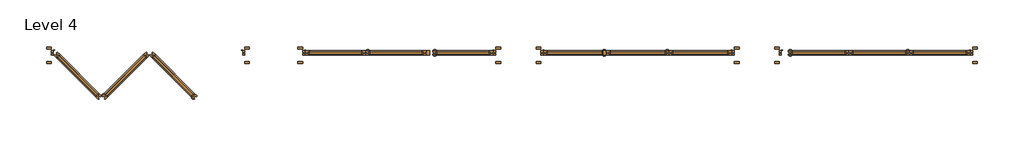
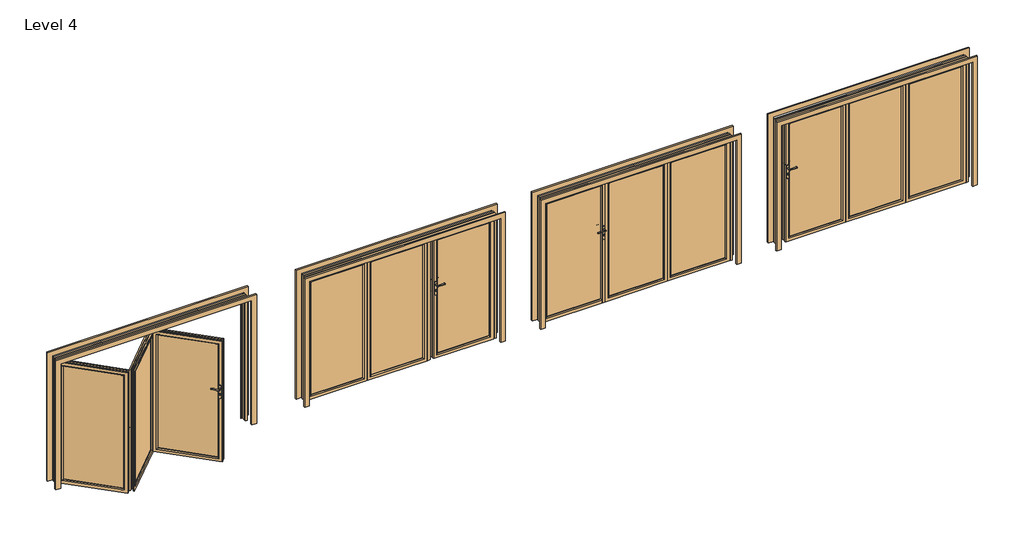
# One storey: 4 doors.
"""IFC4 building model written with IfcOpenShell, lengths in millimetres."""

from ifc_helpers import new_model, si_unit, origin, place, context, project, spatial, transform, mapped, element, save
from components import standard_790c8caa, standard_c6a34117, standard_d20078e9, standard_79affe37

model = new_model("IFC4")

# Units and contexts
model_context = context("Model", 3, world=origin())
ifc_project = project(units=[si_unit("LENGTHUNIT", "METRE", prefix="MILLI")], contexts=[model_context])

# Site, building, storey
site = spatial("IfcSite", under=ifc_project)
building = spatial("IfcBuilding", under=site)
storey = spatial("IfcBuildingStorey", under=building, Name="Level 4", Elevation=9000.0)

# Doors
placement = place(None, origin())
standard_shape = standard_790c8caa(model_context)
element("IfcDoor", 1, ObjectType="SMARTS_Visofold1000 : Standard", at=placement, inside=storey, context=model_context, shape_type="MappedRepresentation", body=[
    mapped(standard_shape, transform((-185862.6139854, 24312.6264647, 9100.0), x_axis=(1.0, 0.0, 0.0), y_axis=(0.0, 1.0, 0.0), z_axis=(0.0, 0.0, 1.0))),
])
standard_2_shape = standard_c6a34117(model_context)
element("IfcDoor", 2, ObjectType="SMARTS_Visofold1000 : Standard", at=placement, inside=storey, context=model_context, shape_type="MappedRepresentation", body=[
    mapped(standard_2_shape, transform((-189562.6139854, 24312.6264647, 9100.0), x_axis=(1.0, 0.0, 0.0), y_axis=(0.0, 1.0, 0.0), z_axis=(0.0, 0.0, 1.0))),
])
standard_3_shape = standard_d20078e9(model_context)
element("IfcDoor", 3, ObjectType="SMARTS_Visofold1000 : Standard", at=placement, inside=storey, context=model_context, shape_type="MappedRepresentation", body=[
    mapped(standard_3_shape, transform((-193262.6139854, 24312.6264647, 9100.0), x_axis=(1.0, 0.0, 0.0), y_axis=(0.0, 1.0, 0.0), z_axis=(0.0, 0.0, 1.0))),
])
standard_4_shape = standard_79affe37(model_context)
element("IfcDoor", 4, ObjectType="SMARTS_Visofold1000 : Standard", at=placement, inside=storey, context=model_context, shape_type="MappedRepresentation", body=[
    mapped(standard_4_shape, transform((-197162.6139854, 24312.6264647, 9100.0), x_axis=(1.0, 0.0, 0.0), y_axis=(0.0, 1.0, 0.0), z_axis=(0.0, 0.0, 1.0))),
])

save(model, "model.ifc")
